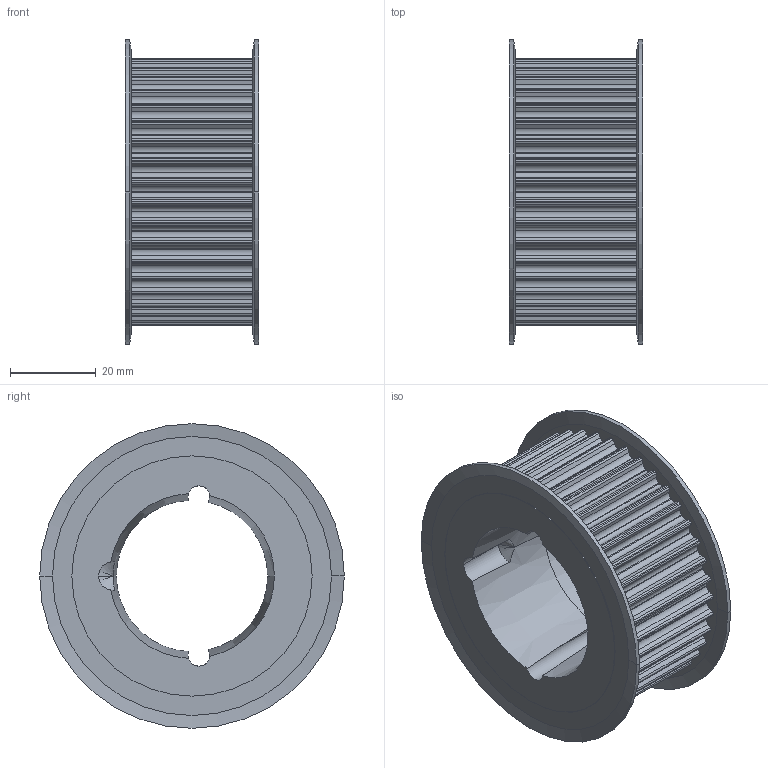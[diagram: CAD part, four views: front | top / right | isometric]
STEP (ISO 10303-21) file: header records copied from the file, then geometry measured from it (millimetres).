
FILE_DESCRIPTION( ( '' ), '1' );
FILE_NAME( 'C:/Users/Stangenbergd/Documents/CAD_Step/1/17277440.stp', '2021-10-19T10:07:22', ( '' ), ( '' ), ' ', ' ', ' ' );
FILE_SCHEMA( ( 'CONFIG_CONTROL_DESIGN' ) );
Length unit declared in the file: millimetre
Products named in the file (1): 1
Bounding box: 31.04 x 71 x 71 mm (x, y, z)
Volume: 51352.5 mm3; surface area: 20108 mm2
Topology: 1 solids, 1 shells, 361 faces, 1056 edges, 700 vertices
Faces by surface type: cylinder 218, plane 127, cone 14, torus 2
Entity records: 12295 total; most frequent: CARTESIAN_POINT 2248, DIRECTION 2221, ORIENTED_EDGE 2108, EDGE_CURVE 1054, AXIS2_PLACEMENT_3D 817, VERTEX_POINT 700, LINE 587, VECTOR 587
